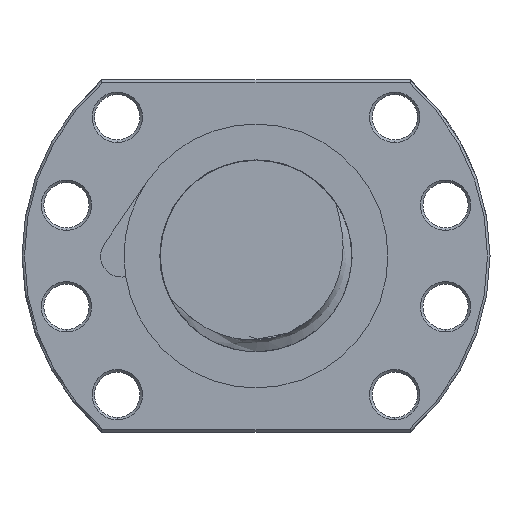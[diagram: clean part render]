
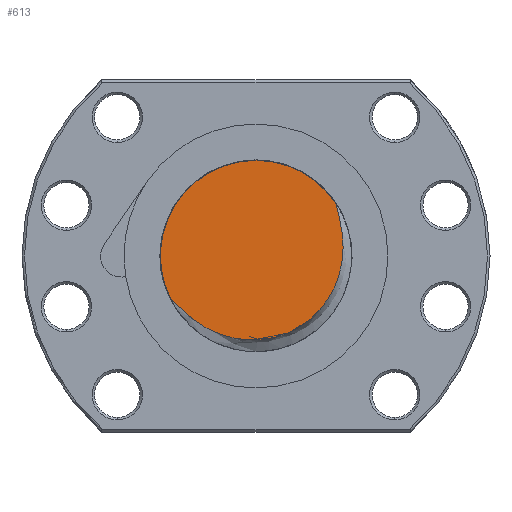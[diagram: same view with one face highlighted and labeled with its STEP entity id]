
A CAD part, left-side view. The second image highlights one B-rep face of the part: STEP entity #613.
In plain terms, the highlighted planar face has unit normal (-1, 0, 0).
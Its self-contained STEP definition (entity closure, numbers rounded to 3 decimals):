
#75 = EDGE_CURVE ( 'NONE', #76, #77, #2387, .T. ) ;
#76 = VERTEX_POINT ( 'NONE', #2382 ) ;
#77 = VERTEX_POINT ( 'NONE', #2381 ) ;
#118 = EDGE_CURVE ( 'NONE', #77, #119, #46011, .T. ) ;
#119 = VERTEX_POINT ( 'NONE', #46002 ) ;
#613 = ADVANCED_FACE ( 'NONE', ( #41870 ), #41869, .F. ) ;
#614 = EDGE_LOOP ( 'NONE', ( #615, #616, #618 ) ) ;
#615 = ORIENTED_EDGE ( 'NONE', *, *, #75, .F. ) ;
#616 = ORIENTED_EDGE ( 'NONE', *, *, #617, .T. ) ;
#617 = EDGE_CURVE ( 'NONE', #76, #119, #41862, .T. ) ;
#618 = ORIENTED_EDGE ( 'NONE', *, *, #118, .F. ) ;
#2381 = CARTESIAN_POINT ( 'NONE',  ( -232., 0., 19. ) ) ;
#2382 = CARTESIAN_POINT ( 'NONE',  ( -232., 16.983, -8.519 ) ) ;
#2383 = DIRECTION ( 'NONE',  ( 0., 1., 0. ) ) ;
#2384 = DIRECTION ( 'NONE',  ( 1., 0., 0. ) ) ;
#2385 = CARTESIAN_POINT ( 'NONE',  ( -232., 0., 0. ) ) ;
#2386 = AXIS2_PLACEMENT_3D ( 'NONE', #2385, #2384, #2383 ) ;
#2387 = CIRCLE ( 'NONE', #2386, 19. ) ;
#41849 = CARTESIAN_POINT ( 'NONE',  ( -232., 9.181, -14.652 ) ) ;
#41850 = CARTESIAN_POINT ( 'NONE',  ( -232., 9.707, -14.377 ) ) ;
#41851 = CARTESIAN_POINT ( 'NONE',  ( -232., 10.727, -13.788 ) ) ;
#41852 = CARTESIAN_POINT ( 'NONE',  ( -232., 11.221, -13.473 ) ) ;
#41853 = CARTESIAN_POINT ( 'NONE',  ( -232., 12.662, -12.474 ) ) ;
#41854 = CARTESIAN_POINT ( 'NONE',  ( -232., 13.565, -11.734 ) ) ;
#41855 = CARTESIAN_POINT ( 'NONE',  ( -232., 14.859, -10.546 ) ) ;
#41856 = CARTESIAN_POINT ( 'NONE',  ( -232., 15.28, -10.137 ) ) ;
#41857 = CARTESIAN_POINT ( 'NONE',  ( -232., 15.909, -9.519 ) ) ;
#41858 = CARTESIAN_POINT ( 'NONE',  ( -232., 16.118, -9.313 ) ) ;
#41859 = CARTESIAN_POINT ( 'NONE',  ( -232., 16.542, -8.907 ) ) ;
#41860 = CARTESIAN_POINT ( 'NONE',  ( -232., 16.756, -8.705 ) ) ;
#41861 = CARTESIAN_POINT ( 'NONE',  ( -232., 16.983, -8.519 ) ) ;
#41862 = B_SPLINE_CURVE_WITH_KNOTS ( 'NONE', 3,
 ( #41861, #41860, #41859, #41858, #41857, #41856, #41855, #41854, #41853, #41852, #41851, #41850, #41849, #41990, #41989, #41988, #41987, #41986, #41985, #41984, #41983, #41982, #41981, #41980, #41979, #41978, #41977, #41976, #41975, #41974, #41973, #41972, #41971, #41970, #41969, #41968, #41967, #41966, #41965, #41964, #41963, #41962, #41961, #41960, #41959, #41958, #41957, #41956, #41955, #41954, #41953, #41952, #41951, #41950, #41949, #41948 ),
 .UNSPECIFIED., .F., .F.,
 ( 4, 2, 2, 2, 2, 2, 2, 2, 2, 2, 2, 2, 2, 2, 2, 2, 2, 2, 2, 2, 2, 2, 2, 2, 2, 2, 2, 4 ),
 ( 0.015, 0.016, 0.017, 0.018, 0.022, 0.023, 0.025, 0.029, 0.03, 0.032, 0.036, 0.037, 0.039, 0.043, 0.044, 0.046, 0.048, 0.049, 0.053, 0.055, 0.056, 0.06, 0.062, 0.063, 0.067, 0.069, 0.069, 0.07 ),
 .UNSPECIFIED. ) ;
#41865 = DIRECTION ( 'NONE',  ( 0., 0., -1. ) ) ;
#41866 = DIRECTION ( 'NONE',  ( 1., 0., 0. ) ) ;
#41867 = CARTESIAN_POINT ( 'NONE',  ( -232., 0., 0. ) ) ;
#41868 = AXIS2_PLACEMENT_3D ( 'NONE', #41867, #41866, #41865 ) ;
#41869 = PLANE ( 'NONE',  #41868 ) ;
#41870 = FACE_OUTER_BOUND ( 'NONE', #614, .T. ) ;
#41948 = CARTESIAN_POINT ( 'NONE',  ( -232., -15.869, 10.448 ) ) ;
#41949 = CARTESIAN_POINT ( 'NONE',  ( -232., -15.917, 10.159 ) ) ;
#41950 = CARTESIAN_POINT ( 'NONE',  ( -232., -15.984, 9.873 ) ) ;
#41951 = CARTESIAN_POINT ( 'NONE',  ( -232., -16.124, 9.303 ) ) ;
#41952 = CARTESIAN_POINT ( 'NONE',  ( -232., -16.198, 9.019 ) ) ;
#41953 = CARTESIAN_POINT ( 'NONE',  ( -232., -16.418, 8.167 ) ) ;
#41954 = CARTESIAN_POINT ( 'NONE',  ( -232., -16.562, 7.598 ) ) ;
#41955 = CARTESIAN_POINT ( 'NONE',  ( -232., -16.943, 5.885 ) ) ;
#41956 = CARTESIAN_POINT ( 'NONE',  ( -232., -17.133, 4.734 ) ) ;
#41957 = CARTESIAN_POINT ( 'NONE',  ( -232., -17.278, 2.989 ) ) ;
#41958 = CARTESIAN_POINT ( 'NONE',  ( -232., -17.304, 2.404 ) ) ;
#41959 = CARTESIAN_POINT ( 'NONE',  ( -232., -17.305, 1.228 ) ) ;
#41960 = CARTESIAN_POINT ( 'NONE',  ( -232., -17.28, 0.635 ) ) ;
#41961 = CARTESIAN_POINT ( 'NONE',  ( -232., -17.128, -1.124 ) ) ;
#41962 = CARTESIAN_POINT ( 'NONE',  ( -232., -16.925, -2.276 ) ) ;
#41963 = CARTESIAN_POINT ( 'NONE',  ( -232., -16.46, -3.971 ) ) ;
#41964 = CARTESIAN_POINT ( 'NONE',  ( -232., -16.278, -4.532 ) ) ;
#41965 = CARTESIAN_POINT ( 'NONE',  ( -232., -15.858, -5.639 ) ) ;
#41966 = CARTESIAN_POINT ( 'NONE',  ( -232., -15.623, -6.178 ) ) ;
#41967 = CARTESIAN_POINT ( 'NONE',  ( -232., -14.846, -7.754 ) ) ;
#41968 = CARTESIAN_POINT ( 'NONE',  ( -232., -14.232, -8.75 ) ) ;
#41969 = CARTESIAN_POINT ( 'NONE',  ( -232., -13.159, -10.155 ) ) ;
#41970 = CARTESIAN_POINT ( 'NONE',  ( -232., -12.776, -10.609 ) ) ;
#41971 = CARTESIAN_POINT ( 'NONE',  ( -232., -11.974, -11.469 ) ) ;
#41972 = CARTESIAN_POINT ( 'NONE',  ( -232., -11.554, -11.876 ) ) ;
#41973 = CARTESIAN_POINT ( 'NONE',  ( -232., -10.677, -12.649 ) ) ;
#41974 = CARTESIAN_POINT ( 'NONE',  ( -232., -10.22, -13.013 ) ) ;
#41975 = CARTESIAN_POINT ( 'NONE',  ( -232., -9.266, -13.697 ) ) ;
#41976 = CARTESIAN_POINT ( 'NONE',  ( -232., -8.768, -14.019 ) ) ;
#41977 = CARTESIAN_POINT ( 'NONE',  ( -232., -7.233, -14.904 ) ) ;
#41978 = CARTESIAN_POINT ( 'NONE',  ( -232., -6.167, -15.385 ) ) ;
#41979 = CARTESIAN_POINT ( 'NONE',  ( -232., -4.505, -15.945 ) ) ;
#41980 = CARTESIAN_POINT ( 'NONE',  ( -232., -3.941, -16.105 ) ) ;
#41981 = CARTESIAN_POINT ( 'NONE',  ( -232., -2.791, -16.37 ) ) ;
#41982 = CARTESIAN_POINT ( 'NONE',  ( -232., -2.206, -16.475 ) ) ;
#41983 = CARTESIAN_POINT ( 'NONE',  ( -232., -0.461, -16.7 ) ) ;
#41984 = CARTESIAN_POINT ( 'NONE',  ( -232., 0.705, -16.735 ) ) ;
#41985 = CARTESIAN_POINT ( 'NONE',  ( -232., 2.458, -16.62 ) ) ;
#41986 = CARTESIAN_POINT ( 'NONE',  ( -232., 3.043, -16.553 ) ) ;
#41987 = CARTESIAN_POINT ( 'NONE',  ( -232., 4.212, -16.363 ) ) ;
#41988 = CARTESIAN_POINT ( 'NONE',  ( -232., 4.787, -16.241 ) ) ;
#41989 = CARTESIAN_POINT ( 'NONE',  ( -232., 6.486, -15.797 ) ) ;
#41990 = CARTESIAN_POINT ( 'NONE',  ( -232., 7.584, -15.398 ) ) ;
#46002 = CARTESIAN_POINT ( 'NONE',  ( -232., -15.869, 10.448 ) ) ;
#46003 = DIRECTION ( 'NONE',  ( 0., 1., 0. ) ) ;
#46004 = DIRECTION ( 'NONE',  ( 1., 0., 0. ) ) ;
#46005 = CARTESIAN_POINT ( 'NONE',  ( -232., 0., 0. ) ) ;
#46006 = AXIS2_PLACEMENT_3D ( 'NONE', #46005, #46004, #46003 ) ;
#46011 = CIRCLE ( 'NONE', #46006, 19. ) ;
